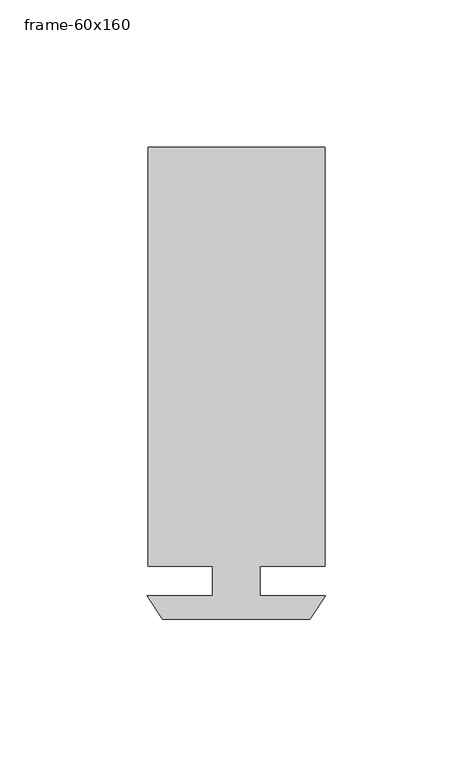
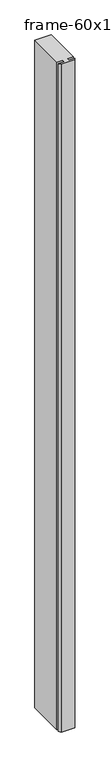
"""IFC4 building model written with IfcOpenShell, lengths in millimetres: member geometry, 長方形マリオン : frame-60x160."""

from ifc_helpers import new_model, si_unit, frame, origin, place, context, project, spatial, polyline, outline, extrude, source, transform, mapped, element, save


def frame_60x160_ca974d75(model_context):
    return source(origin(), model_context, "Body", "SweptSolid", [
        extrude(outline(polyline([(-29.9999236, 136.0040267), (29.9999316, 136.0040267), (29.9999316, -6.0030666), (8.0, -6.0030666), (8.0, -15.9960658), (30.2331027, -15.9960658), (25.037842, -23.9960658), (-25.037842, -23.9960658), (-30.2331027, -15.9960658), (-8.0, -15.9960658), (-8.0, -6.0030666), (-29.9999236, -6.0030666), (-29.9999236, 136.0040267)])), frame((0.0, 0.0, -2633.0), z_axis=(0.0, 0.0, 1.0), x_axis=(1.0, 0.0, 0.0)), (0.0, 0.0, 1.0), 2633.0),
    ])


if __name__ == "__main__":
    model = new_model("IFC4")
    model_context = context("Model", 3, world=origin())
    ifc_project = project(units=[si_unit("LENGTHUNIT", "METRE", prefix="MILLI")], contexts=[model_context])
    site = spatial("IfcSite", under=ifc_project)
    building = spatial("IfcBuilding", under=site)
    placement = place(None, origin())
    frame_60x160_shape = frame_60x160_ca974d75(model_context)
    element("IfcMember", 1, ObjectType="長方形マリオン : frame-60x160", at=placement, inside=building, context=model_context, shape_type="MappedRepresentation", body=[
        mapped(frame_60x160_shape, transform((0.0, 0.0, 0.0), x_axis=(1.0, 0.0, 0.0), y_axis=(0.0, 1.0, 0.0), z_axis=(0.0, 0.0, 1.0))),
    ])
    save(model, "model.ifc")
